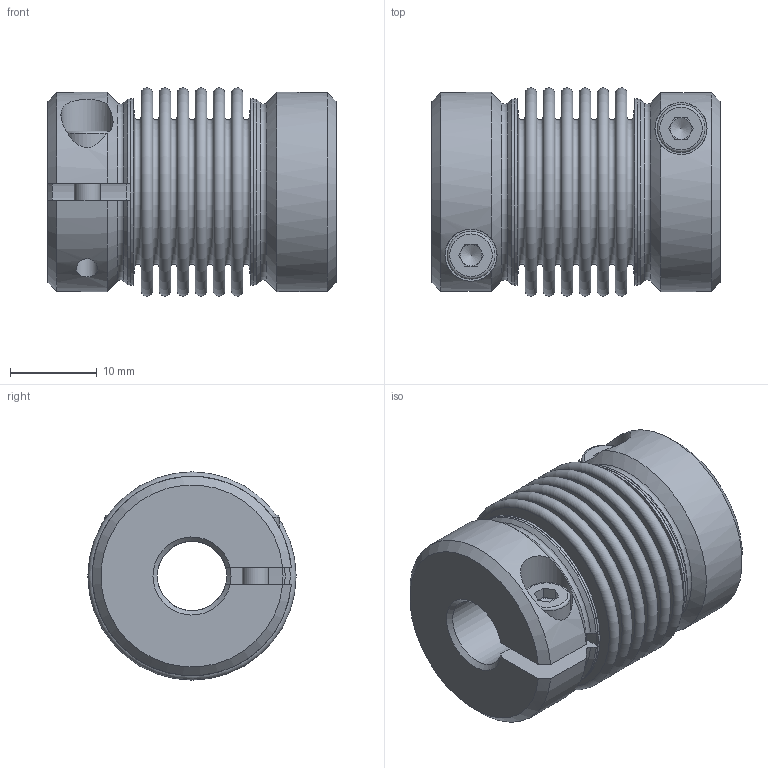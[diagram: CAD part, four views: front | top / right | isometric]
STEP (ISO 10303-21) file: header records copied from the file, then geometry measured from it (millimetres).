
FILE_DESCRIPTION(/* description */ ('Unknown','CAx-IF Rec.Pracs.---Representation and Presentation of Product Manufacturing Information (PMI)---4.0---2014-10-13','CAx-IF Rec.Pracs.---3D Tessellated Geometry---0.4---2014-09-14','2;1'),/* implementation_level */ '2;1');
FILE_NAME(/* name */ 'MB-13324685',/* time_stamp */ '2023-07-20T08:01:01+02:00',/* author */ ('Unknown'),/* organization */ ('Unknown'),/* preprocessor_version */ 'ST-DEVELOPER v18.102',/* originating_system */ 'Solid Edge',/* authorisation */ 'Unknown');
FILE_SCHEMA (('AP242_MANAGED_MODEL_BASED_3D_ENGINEERING_MIM_LF { 1 0 10303 442 1 1 4 }'));
Length unit declared in the file: millimetre
Products named in the file (4): MB-13324685; 20723860; 28820580; KT101128
Assembly tree (5 placements, depth 2):
  MB-13324685
    20723860
    28820580  x2
    KT101128  x2
Bounding box: 33.2 x 24 x 24 mm (x, y, z)
Volume: 7207.4 mm3; surface area: 11175.5 mm2
Topology: 5 solids, 5 shells, 134 faces, 274 edges, 176 vertices
Faces by surface type: plane 66, torus 30, cylinder 20, cone 18
Full cylindrical faces by diameter (mm): 2.5 x2, 3 x2, 3.4 x2, 5.5 x2, 6 x2, 21 x2, 21.5 x2
Entity records: 2384 total; most frequent: CARTESIAN_POINT 427, DIRECTION 422, ORIENTED_EDGE 274, AXIS2_PLACEMENT_3D 194, FACE_BOUND 171, EDGE_LOOP 170, EDGE_CURVE 137, VERTEX_POINT 114
